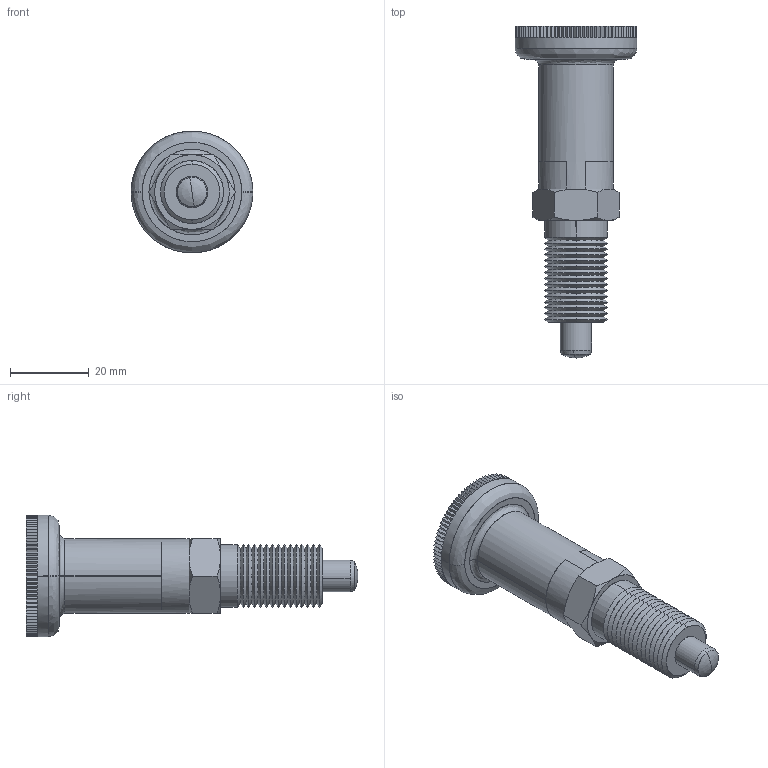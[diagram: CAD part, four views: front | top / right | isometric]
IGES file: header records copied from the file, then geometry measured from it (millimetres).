
Start section: SolidWorks IGES file using analytic representation for surfaces
Global section: file name: C:\Documents and Settings\IANO\My Documents\Wix and Auto CAD Work\CAD Models\Parametric Models\Wix Models\30000\32712_v2\32712_v2_20160414_IGES\32712.W0708.igs; native system: SolidWorks 2009; preprocessor: SolidWorks 2009; author: IANO; date: 160630.184955; units: millimetre
Bounding box: 31 x 84.5 x 31 mm (x, y, z)
Surface area: 10472.6 mm2 (no closed solid volume)
Topology: 0 solids, 0 shells, 415 faces, 2714 edges, 2712 vertices
Faces by surface type: bspline 315, revolution 100
